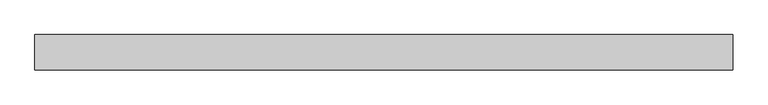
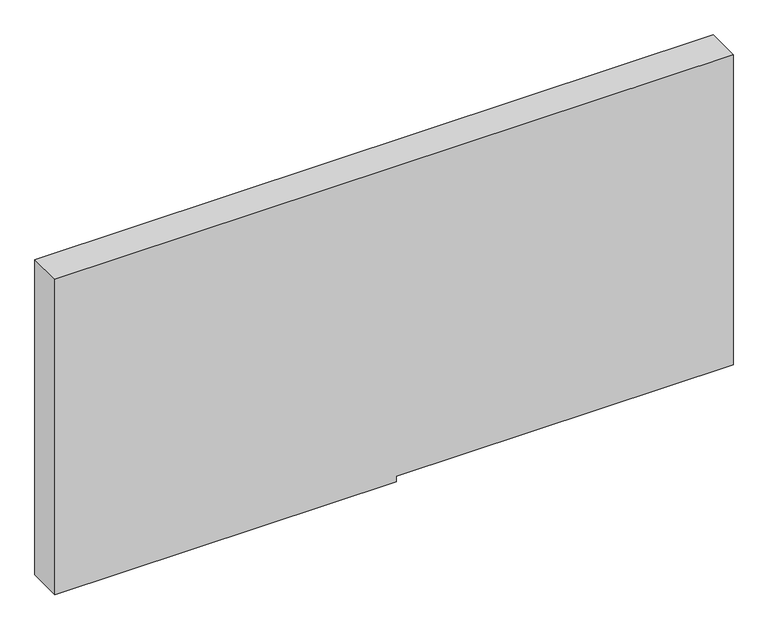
"""IFC4 building model written with IfcOpenShell, lengths in millimetres: plate geometry, Системная панель : Алюкобонд серый."""

from ifc_helpers import new_model, si_unit, frame, origin, place, context, project, spatial, polyline, outline, extrude, source, transform, mapped, element, save


def plate_9c76cd38(model_context):
    return source(origin(), model_context, "Body", "SweptSolid", [
        extrude(outline(polyline([(0.0, -590.0), (0.0, 3.5905411), (10.0, 3.5905411), (10.0, 590.0), (580.0, 590.0), (580.0, -590.0), (0.0, -590.0)])), frame((0.0, -49.5, 0.0), z_axis=(0.0, 1.0, 0.0), x_axis=(0.0, 0.0, 1.0)), (0.0, 0.0, 1.0), 60.0),
    ])


if __name__ == "__main__":
    model = new_model("IFC4")
    model_context = context("Model", 3, world=origin())
    ifc_project = project(units=[si_unit("LENGTHUNIT", "METRE", prefix="MILLI")], contexts=[model_context])
    site = spatial("IfcSite", under=ifc_project)
    building = spatial("IfcBuilding", under=site)
    placement = place(None, origin())
    plate_shape = plate_9c76cd38(model_context)
    element("IfcPlate", 1, ObjectType="Системная панель : Алюкобонд серый", at=placement, inside=building, context=model_context, shape_type="MappedRepresentation", body=[
        mapped(plate_shape, transform((0.0, 0.0, 0.0), x_axis=(1.0, 0.0, 0.0), y_axis=(0.0, 1.0, 0.0), z_axis=(0.0, 0.0, 1.0))),
    ])
    save(model, "model.ifc")
